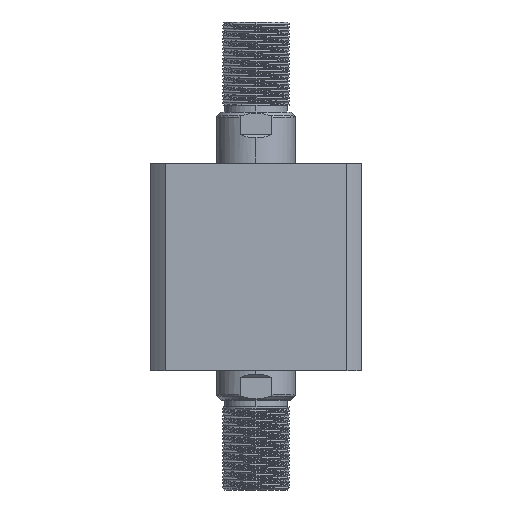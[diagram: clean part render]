
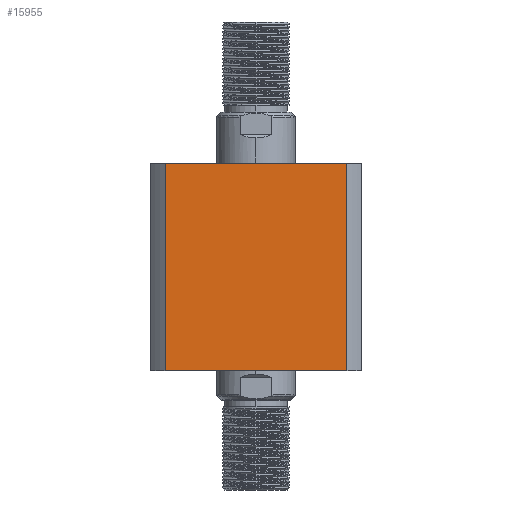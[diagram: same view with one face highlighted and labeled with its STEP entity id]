
A CAD part, left-side view. The second image highlights one B-rep face of the part: STEP entity #15955.
In plain terms, the highlighted planar face has unit normal (-1, 0, 0).
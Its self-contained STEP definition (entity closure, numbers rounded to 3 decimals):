
#1004 = EDGE_CURVE ( 'NONE', #10166, #12864, #18382, .T. ) ;
#1178 = PLANE ( 'NONE',  #8966 ) ;
#3334 = DIRECTION ( 'NONE',  ( 1., 0., 0. ) ) ;
#3471 = CARTESIAN_POINT ( 'NONE',  ( -47., 40.435, 92. ) ) ;
#4013 = LINE ( 'NONE', #8554, #20398 ) ;
#4570 = CARTESIAN_POINT ( 'NONE',  ( -47., -40.435, 0. ) ) ;
#4658 = FACE_OUTER_BOUND ( 'NONE', #17505, .T. ) ;
#5006 = EDGE_CURVE ( 'NONE', #12206, #22232, #11322, .T. ) ;
#6044 = CARTESIAN_POINT ( 'NONE',  ( -47., 40.435, 0. ) ) ;
#6650 = DIRECTION ( 'NONE',  ( 0., -1., 0. ) ) ;
#7341 = CARTESIAN_POINT ( 'NONE',  ( -47., -40.435, 92. ) ) ;
#8554 = CARTESIAN_POINT ( 'NONE',  ( -47., -40.435, 300. ) ) ;
#8966 = AXIS2_PLACEMENT_3D ( 'NONE', #13955, #3334, #18271 ) ;
#10166 = VERTEX_POINT ( 'NONE', #3471 ) ;
#10201 = CARTESIAN_POINT ( 'NONE',  ( -47., 40.435, 300. ) ) ;
#10750 = VECTOR ( 'NONE', #25122, 1000. ) ;
#11301 = EDGE_CURVE ( 'NONE', #12206, #10166, #12099, .T. ) ;
#11322 = LINE ( 'NONE', #21808, #21319 ) ;
#12099 = LINE ( 'NONE', #10201, #10750 ) ;
#12206 = VERTEX_POINT ( 'NONE', #6044 ) ;
#12832 = DIRECTION ( 'NONE',  ( 0., 0., -1. ) ) ;
#12864 = VERTEX_POINT ( 'NONE', #7341 ) ;
#13955 = CARTESIAN_POINT ( 'NONE',  ( -47., 47., 92. ) ) ;
#15455 = EDGE_CURVE ( 'NONE', #12864, #22232, #4013, .T. ) ;
#15955 = ADVANCED_FACE ( 'NONE', ( #4658 ), #1178, .F. ) ;
#17505 = EDGE_LOOP ( 'NONE', ( #27538, #17519, #27420, #18828 ) ) ;
#17519 = ORIENTED_EDGE ( 'NONE', *, *, #1004, .F. ) ;
#18271 = DIRECTION ( 'NONE',  ( 0., 1., 0. ) ) ;
#18382 = LINE ( 'NONE', #23156, #23347 ) ;
#18828 = ORIENTED_EDGE ( 'NONE', *, *, #5006, .T. ) ;
#20398 = VECTOR ( 'NONE', #12832, 1000. ) ;
#21319 = VECTOR ( 'NONE', #22046, 1000. ) ;
#21808 = CARTESIAN_POINT ( 'NONE',  ( -47., 47., 0. ) ) ;
#22046 = DIRECTION ( 'NONE',  ( 0., -1., 0. ) ) ;
#22232 = VERTEX_POINT ( 'NONE', #4570 ) ;
#23156 = CARTESIAN_POINT ( 'NONE',  ( -47., 47., 92. ) ) ;
#23347 = VECTOR ( 'NONE', #6650, 1000. ) ;
#25122 = DIRECTION ( 'NONE',  ( 0., 0., 1. ) ) ;
#27420 = ORIENTED_EDGE ( 'NONE', *, *, #11301, .F. ) ;
#27538 = ORIENTED_EDGE ( 'NONE', *, *, #15455, .F. ) ;
